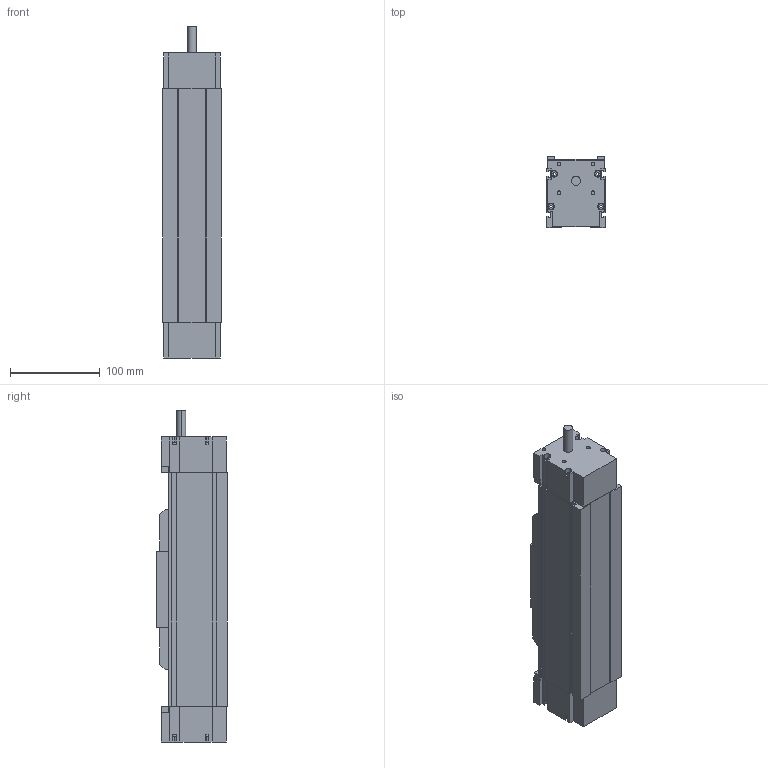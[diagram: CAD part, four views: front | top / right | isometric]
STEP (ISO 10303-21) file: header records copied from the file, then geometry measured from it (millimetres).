
FILE_DESCRIPTION (( 'STEP AP203' ), '1' );
FILE_NAME ('MSX65B-60-LL1605-P7.STEP', '2013-11-02T02:50:14', ( '微软用户' ), ( '微软中国' ), 'SwSTEP 2.0', 'SolidWorks 2010', '' );
FILE_SCHEMA (( 'CONFIG_CONTROL_DESIGN' ));
Length unit declared in the file: millimetre
Products named in the file (1): MSX65B-60-LL1605-P7
Bounding box: 65 x 79 x 370 mm (x, y, z)
Volume: 1458044.3 mm3; surface area: 195266.9 mm2
Topology: 2 solids, 2 shells, 405 faces, 1036 edges, 638 vertices
Faces by surface type: plane 319, cylinder 66, cone 20
Entity records: 12073 total; most frequent: DIRECTION 2080, CARTESIAN_POINT 2068, ORIENTED_EDGE 2048, EDGE_CURVE 1024, LINE 780, VECTOR 780, AXIS2_PLACEMENT_3D 650, VERTEX_POINT 638
